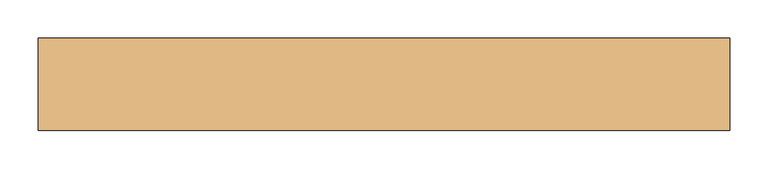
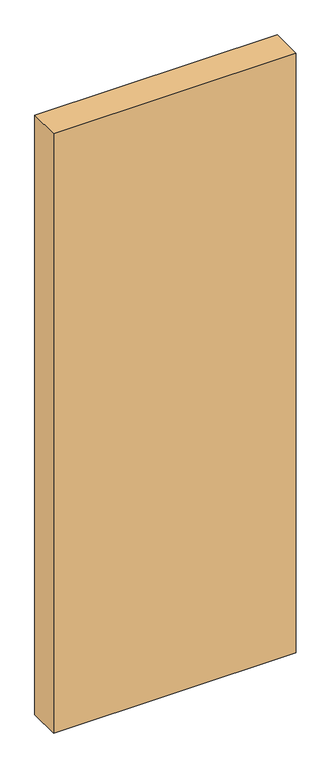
"""IFC4 building model written with IfcOpenShell, lengths in millimetres: door geometry, Dr_Проем-Простой : ДВ."""

from ifc_helpers import new_model, si_unit, frame, origin, place, context, project, spatial, polyline, outline, extrude, source, transform, mapped, element, save


def door_e3477225(model_context):
    return source(origin(), model_context, "Body", "SweptSolid", [
        extrude(outline(polyline([(655.3230163, -60.0), (-244.6769837, -60.0), (-244.6769837, 60.0), (655.3230163, 60.0), (655.3230163, -60.0)])), frame((0.0, 0.0, -250.0), z_axis=(0.0, 0.0, 1.0), x_axis=(1.0, 0.0, 0.0)), (0.0, 0.0, 1.0), 2350.0),
    ])


if __name__ == "__main__":
    model = new_model("IFC4")
    model_context = context("Model", 3, world=origin())
    ifc_project = project(units=[si_unit("LENGTHUNIT", "METRE", prefix="MILLI")], contexts=[model_context])
    site = spatial("IfcSite", under=ifc_project)
    building = spatial("IfcBuilding", under=site)
    placement = place(None, origin())
    door_shape = door_e3477225(model_context)
    element("IfcDoor", 1, ObjectType="Dr_Проем-Простой : ДВ", at=placement, inside=building, context=model_context, shape_type="MappedRepresentation", body=[
        mapped(door_shape, transform((0.0, 0.0, 0.0), x_axis=(1.0, 0.0, 0.0), y_axis=(0.0, 1.0, 0.0), z_axis=(0.0, 0.0, 1.0))),
    ])
    save(model, "model.ifc")
